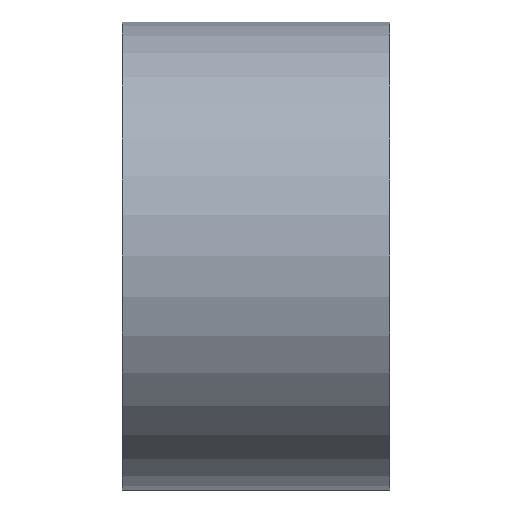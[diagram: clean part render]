
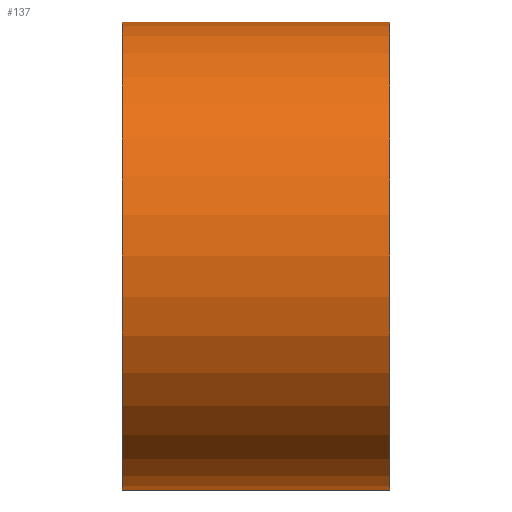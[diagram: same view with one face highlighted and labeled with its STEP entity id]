
A CAD part, front view. The second image highlights one B-rep face of the part: STEP entity #137.
In plain terms, the highlighted cylindrical face has radius 3.5 mm (diameter 7 mm), a partial arc.
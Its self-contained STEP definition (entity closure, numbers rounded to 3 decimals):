
#21 = EDGE_CURVE('',#22,#24,#26,.T.);
#22 = VERTEX_POINT('',#23);
#23 = CARTESIAN_POINT('',(102.3,-2.5,3.5));
#24 = VERTEX_POINT('',#25);
#25 = CARTESIAN_POINT('',(98.3,-2.5,3.5));
#26 = SURFACE_CURVE('',#27,(#31,#43),.PCURVE_S1.);
#27 = LINE('',#28,#29);
#28 = CARTESIAN_POINT('',(102.3,-2.5,3.5));
#29 = VECTOR('',#30,1.);
#30 = DIRECTION('',(-1.,-0.,-0.));
#31 = PCURVE('',#32,#37);
#32 = PLANE('',#33);
#33 = AXIS2_PLACEMENT_3D('',#34,#35,#36);
#34 = CARTESIAN_POINT('',(102.3,-2.5,3.5));
#35 = DIRECTION('',(-0.,-0.,1.));
#36 = DIRECTION('',(0.,-1.,0.));
#37 = DEFINITIONAL_REPRESENTATION('',(#38),#42);
#38 = LINE('',#39,#40);
#39 = CARTESIAN_POINT('',(-0.,0.));
#40 = VECTOR('',#41,1.);
#41 = DIRECTION('',(-0.,-1.));
#42 = ( GEOMETRIC_REPRESENTATION_CONTEXT(2) 
PARAMETRIC_REPRESENTATION_CONTEXT() REPRESENTATION_CONTEXT('2D SPACE',''
  ) );
#43 = PCURVE('',#44,#49);
#44 = CYLINDRICAL_SURFACE('',#45,3.5);
#45 = AXIS2_PLACEMENT_3D('',#46,#47,#48);
#46 = CARTESIAN_POINT('',(102.3,-2.5,0.));
#47 = DIRECTION('',(1.,0.,-0.));
#48 = DIRECTION('',(-0.,-0.,-1.));
#49 = DEFINITIONAL_REPRESENTATION('',(#50),#54);
#50 = LINE('',#51,#52);
#51 = CARTESIAN_POINT('',(-3.142,0.));
#52 = VECTOR('',#53,1.);
#53 = DIRECTION('',(-0.,-1.));
#54 = ( GEOMETRIC_REPRESENTATION_CONTEXT(2) 
PARAMETRIC_REPRESENTATION_CONTEXT() REPRESENTATION_CONTEXT('2D SPACE',''
  ) );
#72 = PLANE('',#73);
#73 = AXIS2_PLACEMENT_3D('',#74,#75,#76);
#74 = CARTESIAN_POINT('',(98.3,0.,0.));
#75 = DIRECTION('',(1.,-0.,-0.));
#76 = DIRECTION('',(0.,0.,1.));
#126 = PLANE('',#127);
#127 = AXIS2_PLACEMENT_3D('',#128,#129,#130);
#128 = CARTESIAN_POINT('',(102.3,0.,0.)
  );
#129 = DIRECTION('',(1.,-0.,-0.));
#130 = DIRECTION('',(0.,0.,1.));
#137 = ADVANCED_FACE('',(#138),#44,.T.);
#138 = FACE_BOUND('',#139,.F.);
#139 = EDGE_LOOP('',(#140,#170,#196,#197));
#140 = ORIENTED_EDGE('',*,*,#141,.T.);
#141 = EDGE_CURVE('',#142,#144,#146,.T.);
#142 = VERTEX_POINT('',#143);
#143 = CARTESIAN_POINT('',(102.3,-2.5,-3.5));
#144 = VERTEX_POINT('',#145);
#145 = CARTESIAN_POINT('',(98.3,-2.5,-3.5));
#146 = SURFACE_CURVE('',#147,(#151,#158),.PCURVE_S1.);
#147 = LINE('',#148,#149);
#148 = CARTESIAN_POINT('',(102.3,-2.5,-3.5));
#149 = VECTOR('',#150,1.);
#150 = DIRECTION('',(-1.,-0.,-0.));
#151 = PCURVE('',#44,#152);
#152 = DEFINITIONAL_REPRESENTATION('',(#153),#157);
#153 = LINE('',#154,#155);
#154 = CARTESIAN_POINT('',(-0.,0.));
#155 = VECTOR('',#156,1.);
#156 = DIRECTION('',(-0.,-1.));
#157 = ( GEOMETRIC_REPRESENTATION_CONTEXT(2) 
PARAMETRIC_REPRESENTATION_CONTEXT() REPRESENTATION_CONTEXT('2D SPACE',''
  ) );
#158 = PCURVE('',#159,#164);
#159 = PLANE('',#160);
#160 = AXIS2_PLACEMENT_3D('',#161,#162,#163);
#161 = CARTESIAN_POINT('',(102.3,2.5,-3.5));
#162 = DIRECTION('',(-0.,-0.,-1.));
#163 = DIRECTION('',(0.,1.,0.));
#164 = DEFINITIONAL_REPRESENTATION('',(#165),#169);
#165 = LINE('',#166,#167);
#166 = CARTESIAN_POINT('',(-5.,0.));
#167 = VECTOR('',#168,1.);
#168 = DIRECTION('',(-0.,-1.));
#169 = ( GEOMETRIC_REPRESENTATION_CONTEXT(2) 
PARAMETRIC_REPRESENTATION_CONTEXT() REPRESENTATION_CONTEXT('2D SPACE',''
  ) );
#170 = ORIENTED_EDGE('',*,*,#171,.T.);
#171 = EDGE_CURVE('',#144,#24,#172,.T.);
#172 = SURFACE_CURVE('',#173,(#178,#185),.PCURVE_S1.);
#173 = CIRCLE('',#174,3.5);
#174 = AXIS2_PLACEMENT_3D('',#175,#176,#177);
#175 = CARTESIAN_POINT('',(98.3,-2.5,0.));
#176 = DIRECTION('',(-1.,0.,0.));
#177 = DIRECTION('',(-0.,-0.,-1.));
#178 = PCURVE('',#44,#179);
#179 = DEFINITIONAL_REPRESENTATION('',(#180),#184);
#180 = LINE('',#181,#182);
#181 = CARTESIAN_POINT('',(-0.,-4.));
#182 = VECTOR('',#183,1.);
#183 = DIRECTION('',(-1.,0.));
#184 = ( GEOMETRIC_REPRESENTATION_CONTEXT(2) 
PARAMETRIC_REPRESENTATION_CONTEXT() REPRESENTATION_CONTEXT('2D SPACE',''
  ) );
#185 = PCURVE('',#72,#186);
#186 = DEFINITIONAL_REPRESENTATION('',(#187),#195);
#187 = ( BOUNDED_CURVE() B_SPLINE_CURVE(2,(#188,#189,#190,#191,#192,#193
,#194),.UNSPECIFIED.,.T.,.F.) B_SPLINE_CURVE_WITH_KNOTS((1,2,2,2,2,1),(
    -2.094,0.,2.094,4.189,6.283,
8.378),.UNSPECIFIED.) CURVE() GEOMETRIC_REPRESENTATION_ITEM() 
RATIONAL_B_SPLINE_CURVE((1.,0.5,1.,0.5,1.,0.5,1.)) REPRESENTATION_ITEM(
  '') );
#188 = CARTESIAN_POINT('',(-3.5,2.5));
#189 = CARTESIAN_POINT('',(-3.5,8.562));
#190 = CARTESIAN_POINT('',(1.75,5.531));
#191 = CARTESIAN_POINT('',(7.,2.5));
#192 = CARTESIAN_POINT('',(1.75,-0.531));
#193 = CARTESIAN_POINT('',(-3.5,-3.562));
#194 = CARTESIAN_POINT('',(-3.5,2.5));
#195 = ( GEOMETRIC_REPRESENTATION_CONTEXT(2) 
PARAMETRIC_REPRESENTATION_CONTEXT() REPRESENTATION_CONTEXT('2D SPACE',''
  ) );
#196 = ORIENTED_EDGE('',*,*,#21,.F.);
#197 = ORIENTED_EDGE('',*,*,#198,.F.);
#198 = EDGE_CURVE('',#142,#22,#199,.T.);
#199 = SURFACE_CURVE('',#200,(#205,#212),.PCURVE_S1.);
#200 = CIRCLE('',#201,3.5);
#201 = AXIS2_PLACEMENT_3D('',#202,#203,#204);
#202 = CARTESIAN_POINT('',(102.3,-2.5,0.));
#203 = DIRECTION('',(-1.,0.,0.));
#204 = DIRECTION('',(-0.,-0.,-1.));
#205 = PCURVE('',#44,#206);
#206 = DEFINITIONAL_REPRESENTATION('',(#207),#211);
#207 = LINE('',#208,#209);
#208 = CARTESIAN_POINT('',(-0.,0.));
#209 = VECTOR('',#210,1.);
#210 = DIRECTION('',(-1.,0.));
#211 = ( GEOMETRIC_REPRESENTATION_CONTEXT(2) 
PARAMETRIC_REPRESENTATION_CONTEXT() REPRESENTATION_CONTEXT('2D SPACE',''
  ) );
#212 = PCURVE('',#126,#213);
#213 = DEFINITIONAL_REPRESENTATION('',(#214),#222);
#214 = ( BOUNDED_CURVE() B_SPLINE_CURVE(2,(#215,#216,#217,#218,#219,#220
,#221),.UNSPECIFIED.,.T.,.F.) B_SPLINE_CURVE_WITH_KNOTS((1,2,2,2,2,1),(
    -2.094,0.,2.094,4.189,6.283,
8.378),.UNSPECIFIED.) CURVE() GEOMETRIC_REPRESENTATION_ITEM() 
RATIONAL_B_SPLINE_CURVE((1.,0.5,1.,0.5,1.,0.5,1.)) REPRESENTATION_ITEM(
  '') );
#215 = CARTESIAN_POINT('',(-3.5,2.5));
#216 = CARTESIAN_POINT('',(-3.5,8.562));
#217 = CARTESIAN_POINT('',(1.75,5.531));
#218 = CARTESIAN_POINT('',(7.,2.5));
#219 = CARTESIAN_POINT('',(1.75,-0.531));
#220 = CARTESIAN_POINT('',(-3.5,-3.562));
#221 = CARTESIAN_POINT('',(-3.5,2.5));
#222 = ( GEOMETRIC_REPRESENTATION_CONTEXT(2) 
PARAMETRIC_REPRESENTATION_CONTEXT() REPRESENTATION_CONTEXT('2D SPACE',''
  ) );
